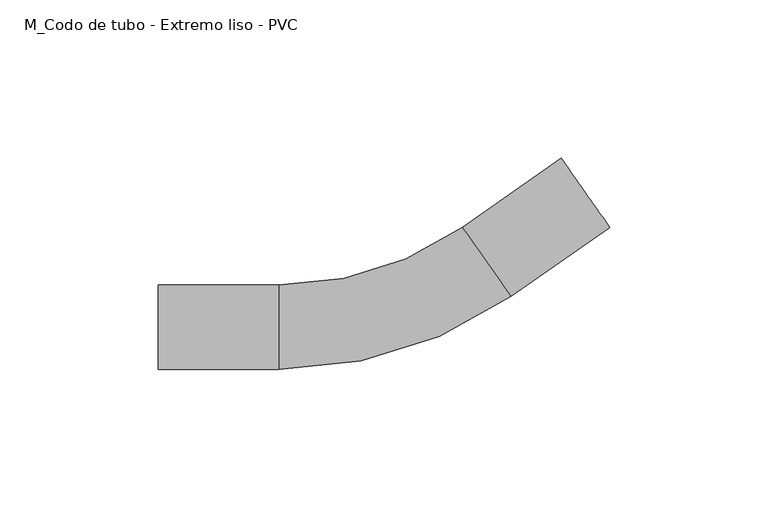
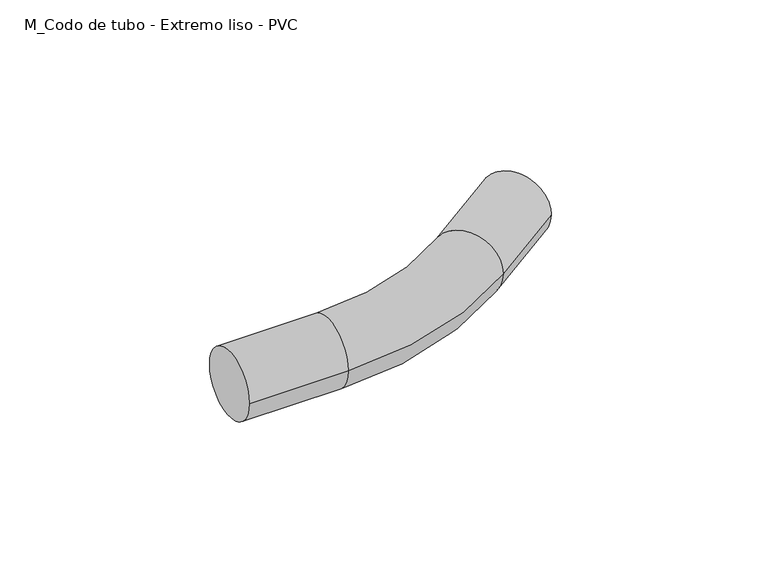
"""IFC4 building model written with IfcOpenShell, lengths in millimetres: cable carrier fitting geometry, M_Codo de tubo - Extremo liso - PVC : CODO ILUMINACION."""

from ifc_helpers import new_model, si_unit, point, frame, origin, place, context, project, spatial, circle_curve, ellipse_curve, trimmed, source, transform, mapped, element, save
from ifc_brep_helpers import plane_surface, cylinder_surface, revolved_surface, advanced_brep


def m_codo_de_tubo_extremo_liso_pvc_a4cd2416(model_context):
    return source(origin(), model_context, "Body", "AdvancedBrep", [
        advanced_brep(
        [(-74.1386516, -13.335, 0.0), (-74.1386516, 13.335, 0.0), (-36.0386516, -13.335, 0.0), (-36.0386516, 13.335, 0.0), (21.8724933, 31.5943138, 0.0), (37.1697769, 9.7475288, 0.0), (68.3794698, 31.6007911, 0.0), (53.0821862, 53.4475761, 0.0)],
        [
            (0, 1, circle_curve(frame((-74.1386516, 0.0, 0.0), z_axis=(-1.0, 0.0, 0.0), x_axis=(0.0, 1.0, 0.0)), 13.335)),
            (1, 0, circle_curve(frame((-74.1386516, 0.0, 0.0), z_axis=(-1.0, 0.0, 0.0), x_axis=(0.0, 1.0, 0.0)), 13.335)),
            (0, 2),
            (2, 3, circle_curve(frame((-36.0386516, 0.0, 0.0), z_axis=(-1.0, 0.0, 0.0), x_axis=(0.0, 1.0, 0.0)), 13.335)),
            (3, 1),
            (3, 2, circle_curve(frame((-36.0386516, 0.0, 0.0), z_axis=(-1.0, 0.0, 0.0), x_axis=(0.0, 1.0, 0.0)), 13.335)),
            (4, 3, circle_curve(frame((-36.0386516, 114.3, 0.0), z_axis=(0.0, 0.0, -1.0), x_axis=(0.0, -1.0, 0.0)), 100.965)),
            (2, 5, circle_curve(frame((-36.0386516, 114.3, 0.0), z_axis=(0.0, 0.0, 1.0), x_axis=(0.0, -1.0, 0.0)), 127.635)),
            (5, 4, circle_curve(frame((29.5211351, 20.6709213, 0.0), z_axis=(-0.8191520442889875, -0.5735764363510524, 0.0), x_axis=(-0.5735764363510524, 0.8191520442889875, 0.0)), 13.335)),
            (4, 5, circle_curve(frame((29.5211351, 20.6709213, 0.0), z_axis=(-0.8191520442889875, -0.5735764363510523, 0.0), x_axis=(-0.5735764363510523, 0.8191520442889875, 0.0)), 13.335)),
            (6, 7, circle_curve(frame((60.730828, 42.5241836, 0.0), z_axis=(0.8191520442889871, 0.5735764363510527, 0.0), x_axis=(-0.5735764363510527, 0.8191520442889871, 0.0)), 13.335)),
            (7, 6, circle_curve(frame((60.730828, 42.5241836, 0.0), z_axis=(0.8191520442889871, 0.5735764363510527, 0.0), x_axis=(-0.5735764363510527, 0.8191520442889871, 0.0)), 13.335)),
            (5, 6),
            (7, 4),
        ],
        [
            plane_surface(frame((-74.1386516, 0.0, 0.0), z_axis=(-1.0, 0.0, 0.0), x_axis=(0.0, 0.0, 1.0))),
            cylinder_surface(frame((-74.1386516, 0.0, 0.0), z_axis=(-1.0, 0.0, 0.0), x_axis=(0.0, 1.0, 0.0)), 13.335),
            revolved_surface(trimmed(ellipse_curve(frame((-36.0386516, 0.0, 0.0), z_axis=(-1.0, 0.0, 0.0), x_axis=(0.0, 1.0, 0.0)), 13.335, 13.335), [point((-36.0386516, -13.335, 0.0))], [point((-36.0386516, 13.335, 0.0))], True, "CARTESIAN"), (-36.0386516, 114.3, 0.0), (0.0, 0.0, 1.0)),
            revolved_surface(trimmed(ellipse_curve(frame((-36.0386516, 0.0, 0.0), z_axis=(-1.0, 0.0, 0.0), x_axis=(0.0, 1.0, 0.0)), 13.335, 13.335), [point((-36.0386516, 13.335, 0.0))], [point((-36.0386516, -13.335, 0.0))], True, "CARTESIAN"), (-36.0386516, 114.3, 0.0), (0.0, 0.0, 1.0)),
            plane_surface(frame((60.730828, 42.5241836, 0.0), z_axis=(0.8191520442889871, 0.5735764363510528, 0.0), x_axis=(0.0, 0.0, 1.0))),
            cylinder_surface(frame((29.5211351, 20.6709213, 0.0), z_axis=(-0.8191520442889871, -0.5735764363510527, 0.0), x_axis=(-0.5735764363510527, 0.8191520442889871, 0.0)), 13.335),
        ],
        [
            (0, [[1, 2]]),
            (1, [[-1, 3, 4, 5]]),
            (1, [[-2, -5, 6, -3]]),
            (2, [[7, -4, 8, 9]]),
            (3, [[-8, -6, -7, 10]]),
            (4, [[11, 12]]),
            (5, [[-9, 13, -12, 14]]),
            (5, [[-10, -14, -11, -13]]),
        ],
    ),
    ])


if __name__ == "__main__":
    model = new_model("IFC4")
    model_context = context("Model", 3, world=origin())
    ifc_project = project(units=[si_unit("LENGTHUNIT", "METRE", prefix="MILLI")], contexts=[model_context])
    site = spatial("IfcSite", under=ifc_project)
    building = spatial("IfcBuilding", under=site)
    placement = place(None, origin())
    m_codo_de_tubo_extremo_liso_pvc_shape = m_codo_de_tubo_extremo_liso_pvc_a4cd2416(model_context)
    element("IfcCableCarrierFitting", 1, ObjectType="M_Codo de tubo - Extremo liso - PVC : CODO ILUMINACION", at=placement, inside=building, context=model_context, shape_type="MappedRepresentation", body=[
        mapped(m_codo_de_tubo_extremo_liso_pvc_shape, transform((0.0, 0.0, 0.0), x_axis=(1.0, 0.0, 0.0), y_axis=(0.0, 1.0, 0.0), z_axis=(0.0, 0.0, 1.0))),
    ])
    save(model, "model.ifc")
